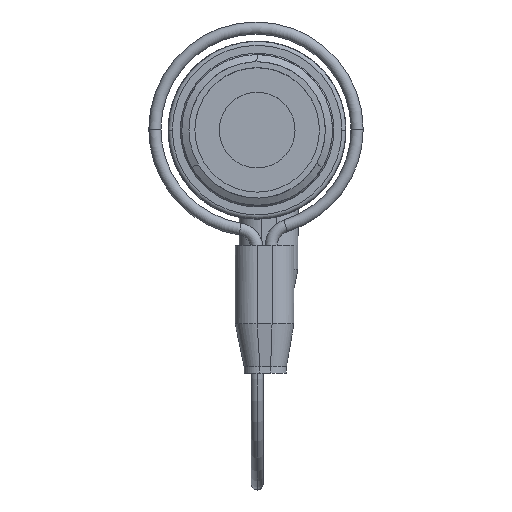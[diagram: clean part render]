
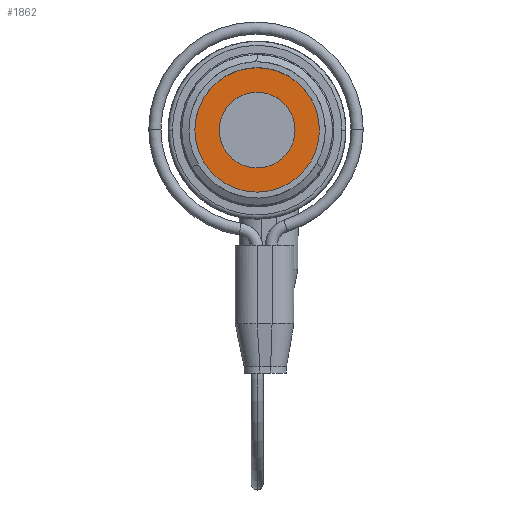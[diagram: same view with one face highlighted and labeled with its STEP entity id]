
A CAD part, top view. The second image highlights one B-rep face of the part: STEP entity #1862.
In plain terms, the highlighted planar face has unit normal (0, 0, 1).
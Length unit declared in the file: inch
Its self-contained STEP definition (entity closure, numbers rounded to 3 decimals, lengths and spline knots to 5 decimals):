
#525 = VERTEX_POINT ( 'NONE', #19942 ) ;
#1634 = AXIS2_PLACEMENT_3D ( 'NONE', #33995, #14765, #14418 ) ;
#1862 = ADVANCED_FACE ( 'NONE', ( #29495, #34430 ), #34988, .F. ) ;
#2380 = CARTESIAN_POINT ( 'NONE',  ( 0., 0., 0. ) ) ;
#5389 = CIRCLE ( 'NONE', #35799, 0.3205 ) ;
#5672 = DIRECTION ( 'NONE',  ( 0., 0., 1. ) ) ;
#7779 = EDGE_CURVE ( 'NONE', #24207, #525, #26184, .T. ) ;
#8892 = EDGE_LOOP ( 'NONE', ( #14572, #24227 ) ) ;
#11605 = VERTEX_POINT ( 'NONE', #16022 ) ;
#11712 = DIRECTION ( 'NONE',  ( 1., 0., 0. ) ) ;
#12941 = CIRCLE ( 'NONE', #30468, 0.3205 ) ;
#13786 = AXIS2_PLACEMENT_3D ( 'NONE', #31701, #15025, #20894 ) ;
#14418 = DIRECTION ( 'NONE',  ( 1., 0., 0. ) ) ;
#14572 = ORIENTED_EDGE ( 'NONE', *, *, #17913, .F. ) ;
#14765 = DIRECTION ( 'NONE',  ( 0., 0., 1. ) ) ;
#15025 = DIRECTION ( 'NONE',  ( 0., 0., -1. ) ) ;
#15279 = EDGE_CURVE ( 'NONE', #19133, #11605, #12941, .T. ) ;
#16022 = CARTESIAN_POINT ( 'NONE',  ( -0.3205, 0., 0. ) ) ;
#17758 = ORIENTED_EDGE ( 'NONE', *, *, #33526, .T. ) ;
#17913 = EDGE_CURVE ( 'NONE', #525, #24207, #27375, .T. ) ;
#18841 = DIRECTION ( 'NONE',  ( 0., 0., 1. ) ) ;
#19133 = VERTEX_POINT ( 'NONE', #28448 ) ;
#19607 = CARTESIAN_POINT ( 'NONE',  ( 0., 0., 0. ) ) ;
#19942 = CARTESIAN_POINT ( 'NONE',  ( 0.1875, 0., 0. ) ) ;
#20894 = DIRECTION ( 'NONE',  ( -1., 0., 0. ) ) ;
#24207 = VERTEX_POINT ( 'NONE', #29380 ) ;
#24227 = ORIENTED_EDGE ( 'NONE', *, *, #7779, .F. ) ;
#24718 = DIRECTION ( 'NONE',  ( 0., 0., 1. ) ) ;
#24905 = DIRECTION ( 'NONE',  ( 1., 0., 0. ) ) ;
#26184 = CIRCLE ( 'NONE', #27310, 0.1875 ) ;
#27310 = AXIS2_PLACEMENT_3D ( 'NONE', #19607, #5672, #11712 ) ;
#27375 = CIRCLE ( 'NONE', #1634, 0.1875 ) ;
#27621 = CARTESIAN_POINT ( 'NONE',  ( 0., 0., 0. ) ) ;
#28448 = CARTESIAN_POINT ( 'NONE',  ( 0.3205, 0., 0. ) ) ;
#28840 = ORIENTED_EDGE ( 'NONE', *, *, #15279, .T. ) ;
#29380 = CARTESIAN_POINT ( 'NONE',  ( -0.1875, 0., 0. ) ) ;
#29495 = FACE_BOUND ( 'NONE', #8892, .T. ) ;
#30468 = AXIS2_PLACEMENT_3D ( 'NONE', #2380, #24718, #24905 ) ;
#31053 = EDGE_LOOP ( 'NONE', ( #28840, #17758 ) ) ;
#31701 = CARTESIAN_POINT ( 'NONE',  ( 0., 0., 0. ) ) ;
#32925 = DIRECTION ( 'NONE',  ( 1., 0., 0. ) ) ;
#33526 = EDGE_CURVE ( 'NONE', #11605, #19133, #5389, .T. ) ;
#33995 = CARTESIAN_POINT ( 'NONE',  ( 0., 0., 0. ) ) ;
#34430 = FACE_OUTER_BOUND ( 'NONE', #31053, .T. ) ;
#34988 = PLANE ( 'NONE',  #13786 ) ;
#35799 = AXIS2_PLACEMENT_3D ( 'NONE', #27621, #18841, #32925 ) ;
